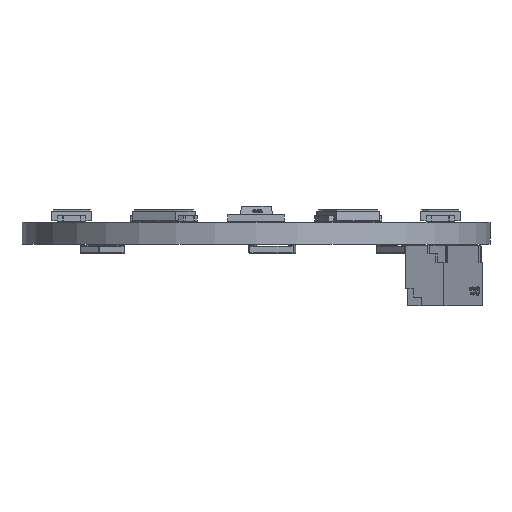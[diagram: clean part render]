
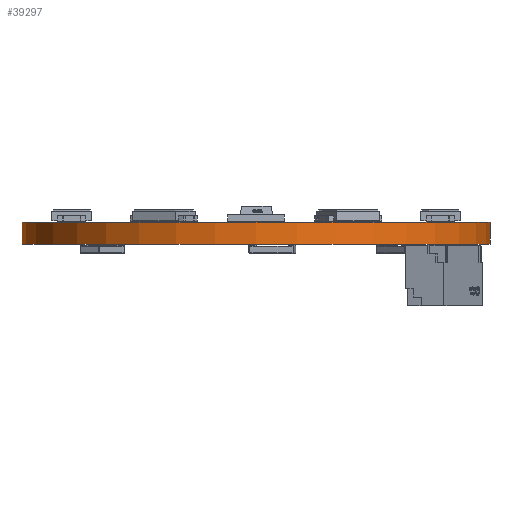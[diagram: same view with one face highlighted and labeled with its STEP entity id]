
A CAD part, front view. The second image highlights one B-rep face of the part: STEP entity #39297.
In plain terms, the highlighted cylindrical face has radius 16.5 mm (diameter 33 mm), a full revolution.
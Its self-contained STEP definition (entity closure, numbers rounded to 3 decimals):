
#39297 = ADVANCED_FACE('',(#39298),#39325,.T.);
#39298 = FACE_BOUND('',#39299,.F.);
#39299 = EDGE_LOOP('',(#39300,#39310,#39317,#39318));
#39300 = ORIENTED_EDGE('',*,*,#39301,.T.);
#39301 = EDGE_CURVE('',#39302,#39304,#39306,.T.);
#39302 = VERTEX_POINT('',#39303);
#39303 = CARTESIAN_POINT('',(116.5,-100.,0.));
#39304 = VERTEX_POINT('',#39305);
#39305 = CARTESIAN_POINT('',(116.5,-100.,1.53));
#39306 = LINE('',#39307,#39308);
#39307 = CARTESIAN_POINT('',(116.5,-100.,0.));
#39308 = VECTOR('',#39309,1.);
#39309 = DIRECTION('',(0.,0.,1.));
#39310 = ORIENTED_EDGE('',*,*,#39311,.T.);
#39311 = EDGE_CURVE('',#39304,#39304,#39312,.T.);
#39312 = CIRCLE('',#39313,16.5);
#39313 = AXIS2_PLACEMENT_3D('',#39314,#39315,#39316);
#39314 = CARTESIAN_POINT('',(100.,-100.,1.53));
#39315 = DIRECTION('',(0.,0.,1.));
#39316 = DIRECTION('',(1.,0.,-0.));
#39317 = ORIENTED_EDGE('',*,*,#39301,.F.);
#39318 = ORIENTED_EDGE('',*,*,#39319,.F.);
#39319 = EDGE_CURVE('',#39302,#39302,#39320,.T.);
#39320 = CIRCLE('',#39321,16.5);
#39321 = AXIS2_PLACEMENT_3D('',#39322,#39323,#39324);
#39322 = CARTESIAN_POINT('',(100.,-100.,0.));
#39323 = DIRECTION('',(0.,0.,1.));
#39324 = DIRECTION('',(1.,0.,-0.));
#39325 = CYLINDRICAL_SURFACE('',#39326,16.5);
#39326 = AXIS2_PLACEMENT_3D('',#39327,#39328,#39329);
#39327 = CARTESIAN_POINT('',(100.,-100.,0.));
#39328 = DIRECTION('',(-0.,-0.,-1.));
#39329 = DIRECTION('',(1.,0.,-0.));
